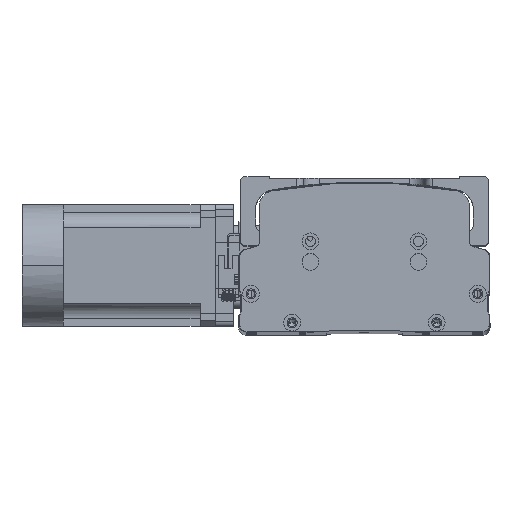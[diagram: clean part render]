
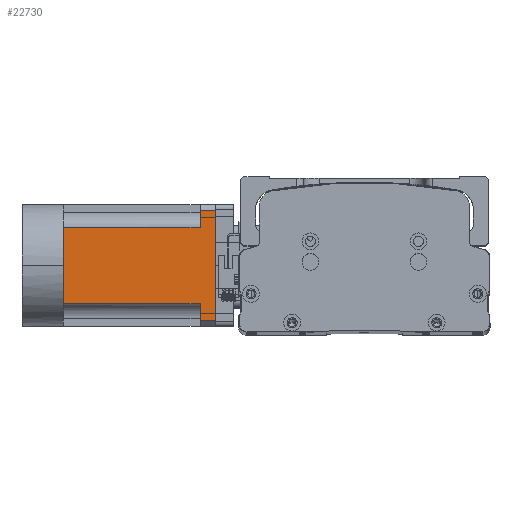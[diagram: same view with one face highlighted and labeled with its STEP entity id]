
A CAD part, top view. The second image highlights one B-rep face of the part: STEP entity #22730.
In plain terms, the highlighted planar face has unit normal (0, -0.003, 1) as drawn and (0, 0, -1) by its records, which use the part's own axes.
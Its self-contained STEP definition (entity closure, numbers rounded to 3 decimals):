
#414 = LINE ( 'NONE', #6117, #40194 ) ;
#978 = CARTESIAN_POINT ( 'NONE',  ( -36., -27., -40. ) ) ;
#2195 = CARTESIAN_POINT ( 'NONE',  ( -36., 100., -40. ) ) ;
#3687 = PLANE ( 'NONE',  #43929 ) ;
#4283 = LINE ( 'NONE', #18404, #45305 ) ;
#5629 = CARTESIAN_POINT ( 'NONE',  ( -40., 0., -40. ) ) ;
#6117 = CARTESIAN_POINT ( 'NONE',  ( 36., -27., -40. ) ) ;
#6255 = ORIENTED_EDGE ( 'NONE', *, *, #9022, .T. ) ;
#6931 = LINE ( 'NONE', #978, #27452 ) ;
#8110 = VERTEX_POINT ( 'NONE', #30906 ) ;
#9022 = EDGE_CURVE ( 'NONE', #29043, #49786, #414, .T. ) ;
#9183 = EDGE_CURVE ( 'NONE', #29663, #8110, #20333, .T. ) ;
#9365 = LINE ( 'NONE', #44136, #18485 ) ;
#9798 = ORIENTED_EDGE ( 'NONE', *, *, #39096, .T. ) ;
#10446 = VECTOR ( 'NONE', #18391, 1000. ) ;
#11504 = VERTEX_POINT ( 'NONE', #14879 ) ;
#11862 = CARTESIAN_POINT ( 'NONE',  ( -25., 0., -40. ) ) ;
#14484 = CARTESIAN_POINT ( 'NONE',  ( -40., 0., -40. ) ) ;
#14807 = CARTESIAN_POINT ( 'NONE',  ( 36., 100., -40. ) ) ;
#14879 = CARTESIAN_POINT ( 'NONE',  ( -36., 90., -40. ) ) ;
#15031 = VECTOR ( 'NONE', #34467, 1000. ) ;
#15131 = CARTESIAN_POINT ( 'NONE',  ( 25., -27., -40. ) ) ;
#15178 = ORIENTED_EDGE ( 'NONE', *, *, #25101, .T. ) ;
#15361 = DIRECTION ( 'NONE',  ( -1., 0., 0. ) ) ;
#16225 = LINE ( 'NONE', #30630, #15031 ) ;
#17241 = CARTESIAN_POINT ( 'NONE',  ( 25., 0., -40. ) ) ;
#17821 = DIRECTION ( 'NONE',  ( 0., -1., 0. ) ) ;
#18391 = DIRECTION ( 'NONE',  ( -1., 0., 0. ) ) ;
#18404 = CARTESIAN_POINT ( 'NONE',  ( -40., 90., -40. ) ) ;
#18485 = VECTOR ( 'NONE', #48075, 1000. ) ;
#19001 = DIRECTION ( 'NONE',  ( 0., -1., 0. ) ) ;
#19524 = LINE ( 'NONE', #14484, #10446 ) ;
#20093 = VERTEX_POINT ( 'NONE', #31209 ) ;
#20333 = LINE ( 'NONE', #49605, #30594 ) ;
#21594 = VERTEX_POINT ( 'NONE', #46599 ) ;
#22177 = VECTOR ( 'NONE', #32611, 1000. ) ;
#22692 = DIRECTION ( 'NONE',  ( 0., 1., 0. ) ) ;
#22730 = ADVANCED_FACE ( 'NONE', ( #42234 ), #3687, .T. ) ;
#24099 = DIRECTION ( 'NONE',  ( 0., 1., 0. ) ) ;
#24561 = CARTESIAN_POINT ( 'NONE',  ( 36., 90., -40. ) ) ;
#25101 = EDGE_CURVE ( 'NONE', #44755, #21594, #46831, .T. ) ;
#25681 = EDGE_CURVE ( 'NONE', #29043, #25746, #9365, .T. ) ;
#25746 = VERTEX_POINT ( 'NONE', #2195 ) ;
#26556 = EDGE_CURVE ( 'NONE', #21594, #29663, #19524, .T. ) ;
#26652 = CARTESIAN_POINT ( 'NONE',  ( -40., -27., -40. ) ) ;
#27452 = VECTOR ( 'NONE', #24099, 1000. ) ;
#29043 = VERTEX_POINT ( 'NONE', #14807 ) ;
#29663 = VERTEX_POINT ( 'NONE', #11862 ) ;
#30594 = VECTOR ( 'NONE', #22692, 1000. ) ;
#30630 = CARTESIAN_POINT ( 'NONE',  ( -40., 90., -40. ) ) ;
#30906 = CARTESIAN_POINT ( 'NONE',  ( -25., 90., -40. ) ) ;
#31209 = CARTESIAN_POINT ( 'NONE',  ( 25., 90., -40. ) ) ;
#32611 = DIRECTION ( 'NONE',  ( -1., 0., 0. ) ) ;
#33108 = EDGE_LOOP ( 'NONE', ( #45318, #6255, #9798, #48591, #15178, #47331, #49395, #33533, #50011 ) ) ;
#33533 = ORIENTED_EDGE ( 'NONE', *, *, #34101, .T. ) ;
#34101 = EDGE_CURVE ( 'NONE', #8110, #11504, #4283, .T. ) ;
#34467 = DIRECTION ( 'NONE',  ( -1., 0., 0. ) ) ;
#34684 = EDGE_CURVE ( 'NONE', #20093, #44755, #38597, .T. ) ;
#34975 = VECTOR ( 'NONE', #19001, 1000. ) ;
#38392 = DIRECTION ( 'NONE',  ( 0., 0., -1. ) ) ;
#38597 = LINE ( 'NONE', #15131, #34975 ) ;
#39096 = EDGE_CURVE ( 'NONE', #49786, #20093, #16225, .T. ) ;
#40194 = VECTOR ( 'NONE', #17821, 1000. ) ;
#41369 = DIRECTION ( 'NONE',  ( -1., 0., 0. ) ) ;
#42234 = FACE_OUTER_BOUND ( 'NONE', #33108, .T. ) ;
#43509 = EDGE_CURVE ( 'NONE', #11504, #25746, #6931, .T. ) ;
#43929 = AXIS2_PLACEMENT_3D ( 'NONE', #26652, #38392, #15361 ) ;
#44136 = CARTESIAN_POINT ( 'NONE',  ( -40., 100., -40. ) ) ;
#44755 = VERTEX_POINT ( 'NONE', #17241 ) ;
#45305 = VECTOR ( 'NONE', #41369, 1000. ) ;
#45318 = ORIENTED_EDGE ( 'NONE', *, *, #25681, .F. ) ;
#46599 = CARTESIAN_POINT ( 'NONE',  ( 0., 0., -40. ) ) ;
#46831 = LINE ( 'NONE', #5629, #22177 ) ;
#47331 = ORIENTED_EDGE ( 'NONE', *, *, #26556, .T. ) ;
#48075 = DIRECTION ( 'NONE',  ( -1., 0., 0. ) ) ;
#48591 = ORIENTED_EDGE ( 'NONE', *, *, #34684, .T. ) ;
#49395 = ORIENTED_EDGE ( 'NONE', *, *, #9183, .T. ) ;
#49605 = CARTESIAN_POINT ( 'NONE',  ( -25., -27., -40. ) ) ;
#49786 = VERTEX_POINT ( 'NONE', #24561 ) ;
#50011 = ORIENTED_EDGE ( 'NONE', *, *, #43509, .T. ) ;
